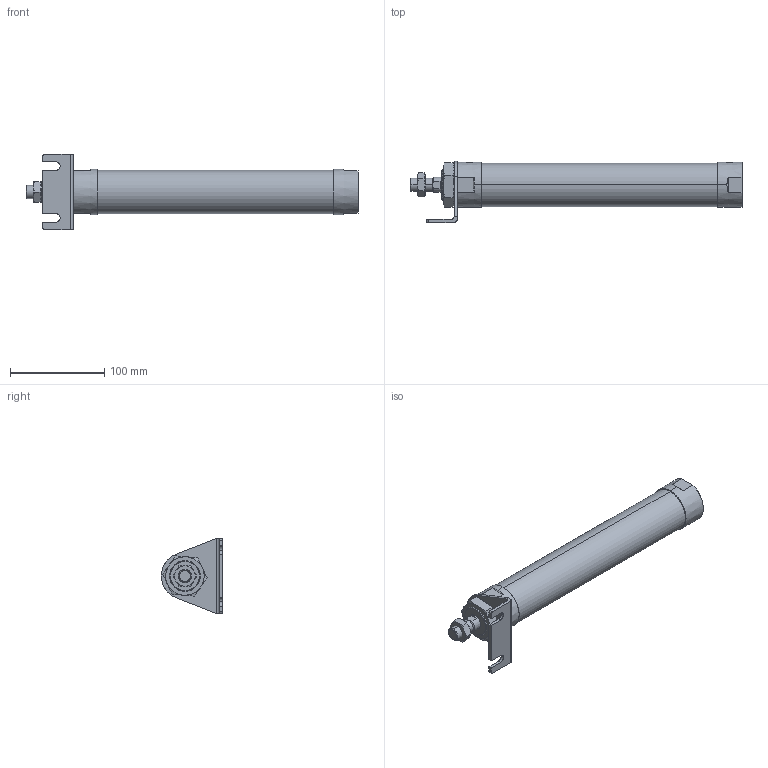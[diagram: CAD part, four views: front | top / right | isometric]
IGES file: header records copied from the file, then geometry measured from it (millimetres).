
Start section: SolidWorks IGES file using analytic representation for surfaces
Global section: file name: C:\Users\Toshiba\Desktop\JGND2-40-200-L.IGS; native system: SolidWorks 2014; preprocessor: SolidWorks 2014; author: Toshiba; date: 160804.111357; units: millimetre
Bounding box: 353 x 65 x 80 mm (x, y, z)
Surface area: 68832.7 mm2 (no closed solid volume)
Topology: 0 solids, 0 shells, 116 faces, 2112 edges, 2108 vertices
Faces by surface type: bspline 71, revolution 45
